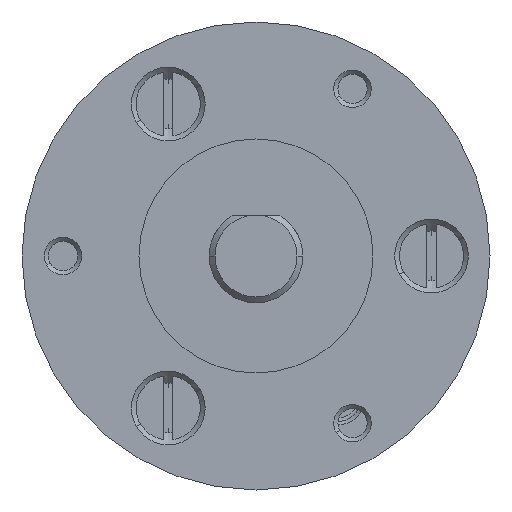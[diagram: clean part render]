
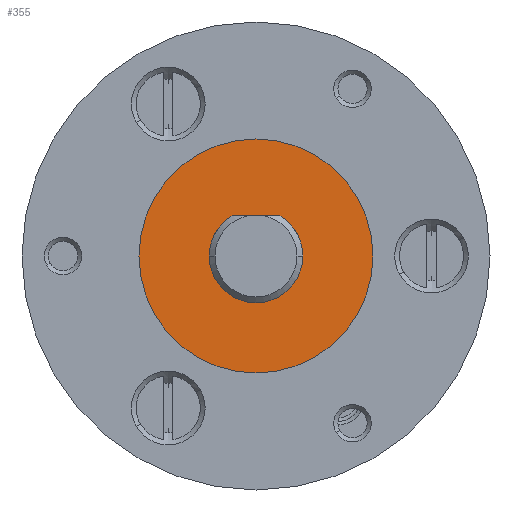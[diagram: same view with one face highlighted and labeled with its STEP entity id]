
A CAD part, left-side view. The second image highlights one B-rep face of the part: STEP entity #355.
In plain terms, the highlighted planar face has unit normal (-1, 0, 0).
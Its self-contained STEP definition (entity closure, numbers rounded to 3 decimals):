
#196 = VERTEX_POINT ( 'NONE', #2895 ) ;
#297 = EDGE_CURVE ( 'NONE', #298, #196, #3219, .T. ) ;
#298 = VERTEX_POINT ( 'NONE', #3263 ) ;
#309 = VERTEX_POINT ( 'NONE', #3289 ) ;
#337 = EDGE_CURVE ( 'NONE', #196, #298, #3378, .T. ) ;
#354 = EDGE_CURVE ( 'NONE', #363, #309, #3434, .T. ) ;
#355 = ADVANCED_FACE ( 'NONE', ( #3429, #3428 ), #3478, .F. ) ;
#356 = EDGE_LOOP ( 'NONE', ( #357, #358 ) ) ;
#357 = ORIENTED_EDGE ( 'NONE', *, *, #354, .F. ) ;
#358 = ORIENTED_EDGE ( 'NONE', *, *, #362, .F. ) ;
#359 = EDGE_LOOP ( 'NONE', ( #360, #361 ) ) ;
#360 = ORIENTED_EDGE ( 'NONE', *, *, #297, .T. ) ;
#361 = ORIENTED_EDGE ( 'NONE', *, *, #337, .T. ) ;
#362 = EDGE_CURVE ( 'NONE', #309, #363, #3472, .T. ) ;
#363 = VERTEX_POINT ( 'NONE', #3467 ) ;
#2895 = CARTESIAN_POINT ( 'NONE',  ( -55.711, 13.775, -5. ) ) ;
#3211 = DIRECTION ( 'NONE',  ( 0., -0.866, 0.5 ) ) ;
#3212 = DIRECTION ( 'NONE',  ( -1., 0., 0. ) ) ;
#3213 = CARTESIAN_POINT ( 'NONE',  ( -55.711, 5.115, 0. ) ) ;
#3214 = AXIS2_PLACEMENT_3D ( 'NONE', #3213, #3212, #3211 ) ;
#3219 = CIRCLE ( 'NONE', #3214, 10. ) ;
#3263 = CARTESIAN_POINT ( 'NONE',  ( -55.711, -3.545, 5. ) ) ;
#3289 = CARTESIAN_POINT ( 'NONE',  ( -55.711, 8.059, -1.7 ) ) ;
#3369 = DIRECTION ( 'NONE',  ( 0., -0.866, 0.5 ) ) ;
#3370 = DIRECTION ( 'NONE',  ( -1., 0., 0. ) ) ;
#3371 = CARTESIAN_POINT ( 'NONE',  ( -55.711, 5.115, 0. ) ) ;
#3372 = AXIS2_PLACEMENT_3D ( 'NONE', #3371, #3370, #3369 ) ;
#3378 = CIRCLE ( 'NONE', #3372, 10. ) ;
#3428 = FACE_OUTER_BOUND ( 'NONE', #359, .T. ) ;
#3429 = FACE_BOUND ( 'NONE', #356, .T. ) ;
#3430 = DIRECTION ( 'NONE',  ( 0., -0.866, 0.5 ) ) ;
#3431 = DIRECTION ( 'NONE',  ( -1., 0., 0. ) ) ;
#3432 = CARTESIAN_POINT ( 'NONE',  ( -55.711, 5.115, 0. ) ) ;
#3433 = AXIS2_PLACEMENT_3D ( 'NONE', #3432, #3431, #3430 ) ;
#3434 = CIRCLE ( 'NONE', #3433, 3.4 ) ;
#3467 = CARTESIAN_POINT ( 'NONE',  ( -55.711, 2.17, 1.7 ) ) ;
#3468 = DIRECTION ( 'NONE',  ( 0., -0.866, 0.5 ) ) ;
#3470 = DIRECTION ( 'NONE',  ( -1., 0., 0. ) ) ;
#3471 = AXIS2_PLACEMENT_3D ( 'NONE', #3477, #3470, #3468 ) ;
#3472 = CIRCLE ( 'NONE', #3471, 3.4 ) ;
#3473 = DIRECTION ( 'NONE',  ( 0., 0.866, -0.5 ) ) ;
#3474 = DIRECTION ( 'NONE',  ( 1., 0., 0. ) ) ;
#3475 = CARTESIAN_POINT ( 'NONE',  ( -55.711, 10.115, 8.66 ) ) ;
#3476 = AXIS2_PLACEMENT_3D ( 'NONE', #3475, #3474, #3473 ) ;
#3477 = CARTESIAN_POINT ( 'NONE',  ( -55.711, 5.115, 0. ) ) ;
#3478 = PLANE ( 'NONE',  #3476 ) ;
